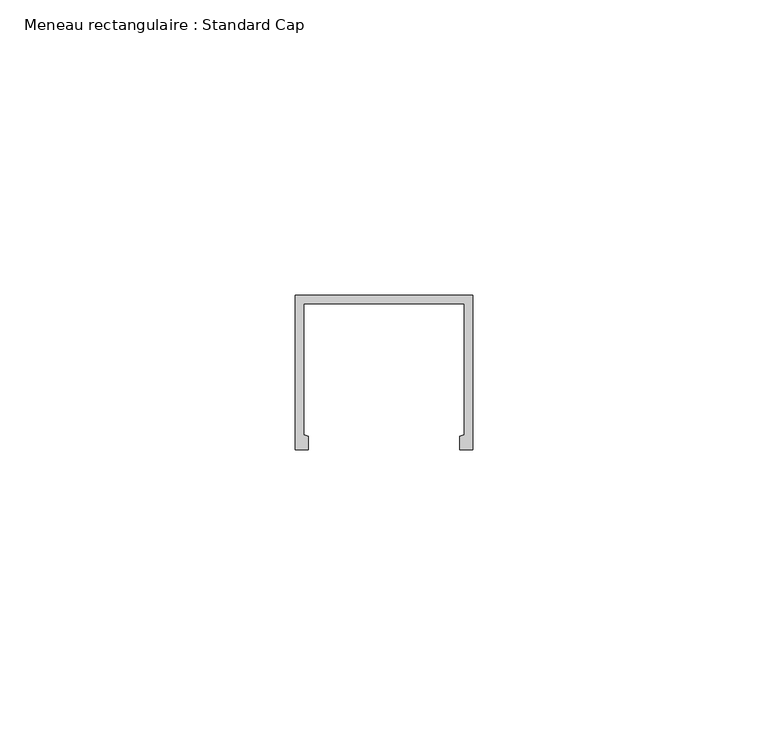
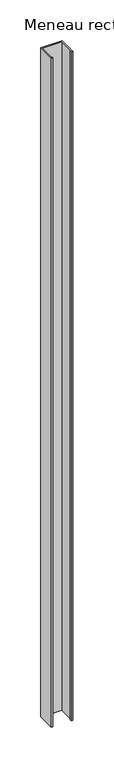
"""IFC4 building model written with IfcOpenShell, lengths in millimetres: member geometry, Meneau rectangulaire : Standard Cap."""

from ifc_helpers import new_model, si_unit, frame, origin, place, context, project, spatial, polyline, outline, extrude, source, transform, mapped, element, save


def meneau_rectangulaire_standard_cap_380d3cc9(model_context):
    return source(origin(), model_context, "Body", "SweptSolid", [
        extrude(outline(polyline([(30.0, 32.1007192), (30.0, 6.0), (27.850993, 6.0), (27.850993, 8.2419727), (28.6, 8.4826662), (28.6, 30.7007192), (1.4, 30.7007192), (1.4, 8.4826662), (2.149007, 8.2419727), (2.149007, 6.0), (0.0, 6.0), (0.0, 32.1007192), (30.0, 32.1007192)])), frame((0.0, 0.0, -1000.0), z_axis=(0.0, 0.0, 1.0), x_axis=(1.0, 0.0, 0.0)), (0.0, 0.0, 1.0), 1000.0),
    ])


if __name__ == "__main__":
    model = new_model("IFC4")
    model_context = context("Model", 3, world=origin())
    ifc_project = project(units=[si_unit("LENGTHUNIT", "METRE", prefix="MILLI")], contexts=[model_context])
    site = spatial("IfcSite", under=ifc_project)
    building = spatial("IfcBuilding", under=site)
    placement = place(None, origin())
    meneau_rectangulaire_standard_cap_shape = meneau_rectangulaire_standard_cap_380d3cc9(model_context)
    element("IfcMember", 1, ObjectType="Meneau rectangulaire : Standard Cap", at=placement, inside=building, context=model_context, shape_type="MappedRepresentation", body=[
        mapped(meneau_rectangulaire_standard_cap_shape, transform((0.0, 0.0, 0.0), x_axis=(1.0, 0.0, 0.0), y_axis=(0.0, 1.0, 0.0), z_axis=(0.0, 0.0, 1.0))),
    ])
    save(model, "model.ifc")
